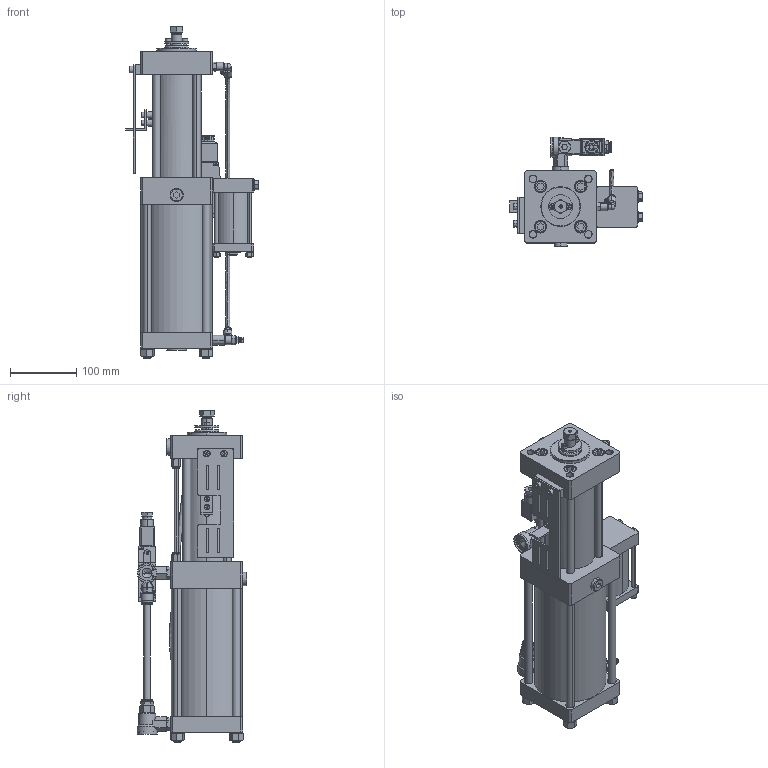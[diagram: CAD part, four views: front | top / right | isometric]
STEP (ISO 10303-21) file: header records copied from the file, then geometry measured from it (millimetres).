
FILE_DESCRIPTION (( 'STEP AP203' ), '1' );
FILE_NAME ('PCT4 10036 VC13.STEP', '2017-12-05T06:34:04', ( '' ), ( '' ), 'SwSTEP 2.0', 'SolidWorks 2015', '' );
FILE_SCHEMA (( 'CONFIG_CONTROL_DESIGN' ));
Length unit declared in the file: millimetre
Products named in the file (39): hexagon nut_is_IS 1363-2 - M6-N; PCT4 10036 VC13; socket head cap screw_is_IS 2269 - M5 x 8-N; 18Janatics-Male elbow_Male threaded nipple_Dia 6 x 18; Janatics-WN015152WN015152_WN015152; hexagon fit bolt_is_IS 3640 - M8 x 25 x 14.5-N; 3 8 BSP PLUG; socket head cap screw_is_IS 2269 - M6 x 10-N; 18Janatics-Male elbow_elbow_DIA 6; Janatics-WN015151WN015151_WN015151; QEV; INT REC; 18Janatics-Male elbow_Collet cap_DIA 6; DC VALVE-Janatics-DEFAULT_DS255SR61; (normal) internal_is_IS 3075(Part2) NI- 26; GASKET; 1 8 BSP FCV-Janatics-GR2_GR1105006; Janatics-Male elbow_elbow_DIA 10; 1 4 BSP QEV; INT TUBE; Part3^PCT; Janatics-Male elbow_Collet cap_DIA 10; Janatics-Male connector_housing MC_WP2110650; INT FEC; Part4^PCT; Janatics-Male elbow_Male threaded nipple_Dia 10 x 14; Janatics-Male connector_Collet cap_DIA 6; SILENCER; INT TR; spring lock washer 6735_is_IS 6735- 12; Janatics-Male elbow_Male elbow; 1 8 BSP PU 6_Janatics-Male connector_Male connector; CONTAINER PRA-03; spring lock washer 6735_is_IS 6735- 6; hexagon nut style 1_is_IS 1364-3 - M12-W-N; PCT CYL_PCT4 10036 VC13; Part1^PCT; Part2^PCT; plain washer (type a)_is_IS 2016 A- 9
Assembly tree (69 placements, depth 3):
  PCT4 10036 VC13
    PCT CYL_PCT4 10036 VC13
    socket head cap screw_is_IS 2269 - M5 x 8-N  x4
    socket head cap screw_is_IS 2269 - M6 x 10-N  x2
    CONTAINER PRA-03
      INT REC
      GASKET  x2
      INT TUBE
      INT FEC
      INT TR  x4
      spring lock washer 6735_is_IS 6735- 6  x4
      hexagon nut_is_IS 1363-2 - M6-N  x4
      3 8 BSP PLUG
      SILENCER
    plain washer (type a)_is_IS 2016 A- 9  x2
    hexagon fit bolt_is_IS 3640 - M8 x 25 x 14.5-N  x2
    1 4 BSP QEV
      QEV
      (normal) internal_is_IS 3075(Part2) NI- 26
    QEV
    1 8 BSP PU 6_Janatics-Male connector_Male connector  x2
      Janatics-Male connector_housing MC_WP2110650
      Janatics-Male connector_Collet cap_DIA 6
    Part2^PCT
    Janatics-WN015152WN015152_WN015152  x2
    Janatics-WN015151WN015151_WN015151
    DC VALVE-Janatics-DEFAULT_DS255SR61
    (normal) internal_is_IS 3075(Part2) NI- 26
    Janatics-Male elbow_Male elbow
      Janatics-Male elbow_elbow_DIA 10
      Janatics-Male elbow_Collet cap_DIA 10
      Janatics-Male elbow_Male threaded nipple_Dia 10 x 14
    Janatics-Male elbow_Collet cap_DIA 10  x2
    Janatics-Male elbow_Male threaded nipple_Dia 10 x 14  x2
    Part1^PCT
    SILENCER  x2
    18Janatics-Male elbow_Male threaded nipple_Dia 6 x 18
    18Janatics-Male elbow_elbow_DIA 6
    18Janatics-Male elbow_Collet cap_DIA 6
    1 8 BSP FCV-Janatics-GR2_GR1105006
    Part4^PCT
    spring lock washer 6735_is_IS 6735- 12  x4
    hexagon nut style 1_is_IS 1364-3 - M12-W-N  x4
  Part3^PCT
Bounding box: 200.6 x 166 x 503 mm (x, y, z)
Volume: 4193382.3 mm3; surface area: 561340.1 mm2
Topology: 87 solids, 88 shells, 4351 faces, 10952 edges, 6921 vertices
Faces by surface type: plane 1938, cylinder 1350, cone 726, torus 177, bspline 145, sphere 15
Entity records: 107644 total; most frequent: CARTESIAN_POINT 25841, ORIENTED_EDGE 16112, DIRECTION 15997, EDGE_CURVE 8056, AXIS2_PLACEMENT_3D 5848, VERTEX_POINT 5150, VECTOR 4301, LINE 4301
